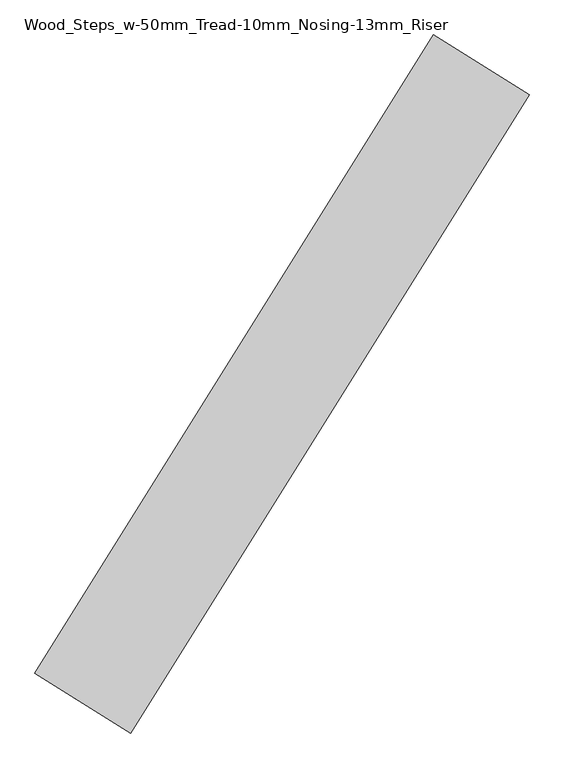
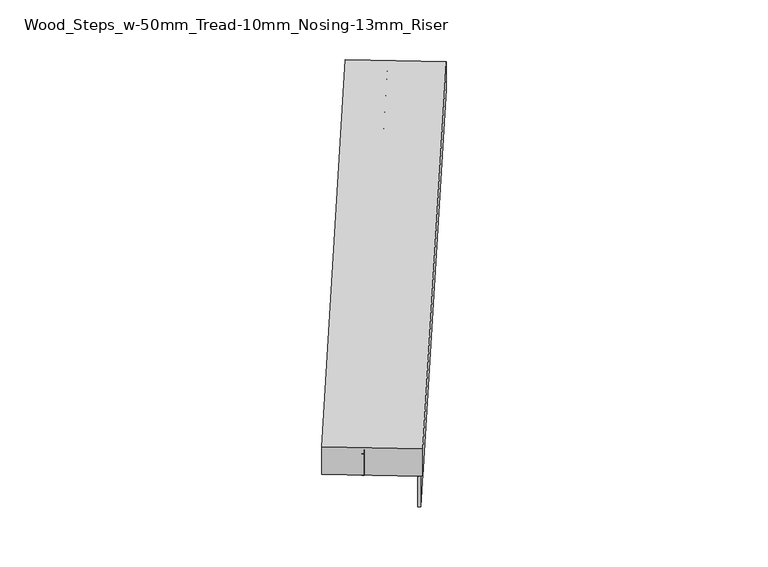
"""IFC4 building model written with IfcOpenShell, lengths in millimetres: stair flight geometry, Wood_Steps_w-50mm_Tread-10mm_Nosing-13mm_Riser."""

from ifc_helpers import new_model, si_unit, frame, origin, place, context, project, spatial, polyline, outline, extrude, source, transform, mapped, element, save


def wood_steps_w_50mm_tread_10mm_nosing_13mm_riser_c46edbeb(model_context):
    return source(origin(), model_context, "Body", "SweptSolid", [
        extrude(outline(polyline([(17182.9103333, 6003.742277), (17564.5319766, 5765.2786081), (15974.7741839, 3221.1343196), (15593.1525406, 3459.5979885), (17182.9103333, 6003.742277)])), frame((0.0, 0.0, 333.3333333), z_axis=(0.0, 0.0, 1.0), x_axis=(1.0, 0.0, 0.0)), (0.0, 0.0, 1.0), 150.0),
        extrude(outline(polyline([(17545.4508944, 5777.2017915), (17556.0514956, 5770.5778007), (15966.2937029, 3226.4335123), (15955.6931017, 3233.0575031), (17545.4508944, 5777.2017915)])), frame((0.0, 0.0, 166.6666667), z_axis=(0.0, 0.0, 1.0), x_axis=(1.0, 0.0, 0.0)), (0.0, 0.0, 1.0), 166.6666667),
        extrude(outline(polyline([(17333.4388704, 5909.6816076), (17344.0394716, 5903.0576168), (15754.2816789, 3358.9133283), (15743.6810777, 3365.5373191), (17333.4388704, 5909.6816076)])), frame((0.0, 0.0, 333.3333333), z_axis=(0.0, 0.0, 1.0), x_axis=(1.0, 0.0, 0.0)), (0.0, 0.0, 1.0), 116.6666667),
    ])


if __name__ == "__main__":
    model = new_model("IFC4")
    model_context = context("Model", 3, world=origin())
    ifc_project = project(units=[si_unit("LENGTHUNIT", "METRE", prefix="MILLI")], contexts=[model_context])
    site = spatial("IfcSite", under=ifc_project)
    building = spatial("IfcBuilding", under=site)
    placement = place(None, origin())
    wood_steps_w_50mm_tread_10mm_nosing_13mm_riser_shape = wood_steps_w_50mm_tread_10mm_nosing_13mm_riser_c46edbeb(model_context)
    element("IfcStairFlight", 1, ObjectType="Wood_Steps_w-50mm_Tread-10mm_Nosing-13mm_Riser", at=placement, inside=building, context=model_context, shape_type="MappedRepresentation", body=[
        mapped(wood_steps_w_50mm_tread_10mm_nosing_13mm_riser_shape, transform((0.0, 0.0, 0.0), x_axis=(1.0, 0.0, 0.0), y_axis=(0.0, 1.0, 0.0), z_axis=(0.0, 0.0, 1.0))),
    ])
    save(model, "model.ifc")
